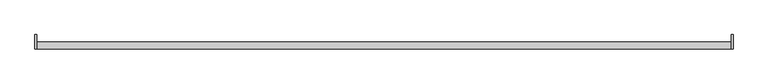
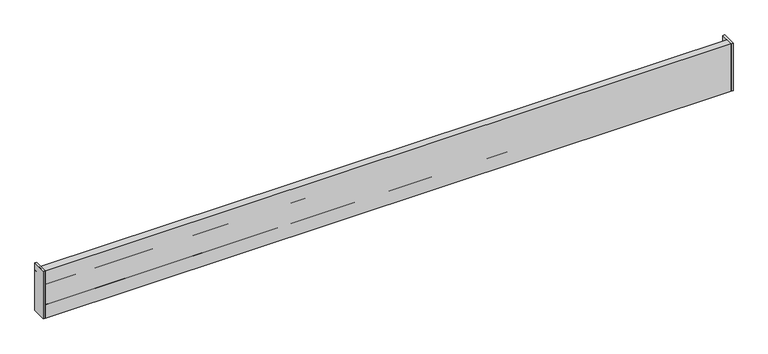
"""IFC4 building model written with IfcOpenShell, lengths in millimetres: furniture geometry."""

from ifc_helpers import new_model, si_unit, frame, origin, place, context, project, spatial, polyline, outline, extrude, source, transform, mapped, element, save


def furniture_f1bbf21a(model_context):
    return source(origin(), model_context, "Body", "SweptSolid", [
        extrude(outline(polyline([(-606.425, 12.6999996), (-606.425, -12.7000004), (-609.6, -12.7000004), (-609.6, 12.6999996), (-606.425, 12.6999996)])), frame((0.0, 0.0, 833.4375), z_axis=(0.0, 0.0, 1.0), x_axis=(1.0, 0.0, 0.0)), (0.0, 0.0, 1.0), 88.9),
        extrude(outline(polyline([(609.6, 12.6999996), (609.6, -12.7000004), (606.425, -12.7000004), (606.425, 12.6999996), (609.6, 12.6999996)])), frame((0.0, 0.0, 833.4375), z_axis=(0.0, 0.0, 1.0), x_axis=(1.0, 0.0, 0.0)), (0.0, 0.0, 1.0), 88.9),
        extrude(outline(polyline([(606.425, 0.0), (606.425, -12.7000004), (-606.425, -12.7000004), (-606.425, 0.0), (606.425, 0.0)])), frame((0.0, 0.0, 833.4375), z_axis=(0.0, 0.0, 1.0), x_axis=(1.0, 0.0, 0.0)), (0.0, 0.0, 1.0), 88.9),
        extrude(outline(polyline([(-12.7000004, 909.6374966), (-12.7000004, 922.3375), (0.0, 922.3375), (0.0, 833.4375), (-12.7000004, 833.4375), (-12.7000004, 858.8374966), (-3.1750002, 858.8374966), (-3.1750002, 871.5374966), (-12.7000004, 871.5374966), (-12.7000004, 896.9374966), (-3.1750002, 896.9374966), (-3.1750002, 909.6374966), (-12.7000004, 909.6374966)])), frame((-606.425, 0.0, 0.0), z_axis=(1.0, 0.0, 0.0), x_axis=(0.0, 1.0, 0.0)), (0.0, 0.0, 1.0), 1212.85),
        extrude(outline(polyline([(-12.7000004, 922.3375), (0.0, 922.3375), (0.0, 909.6374966), (12.6999996, 909.6374966), (12.6999996, 846.137497), (0.0, 846.137497), (0.0, 833.4375), (-12.7000004, 833.4375), (-12.7000004, 922.3375)])), frame((-609.6, 0.0, 0.0), z_axis=(1.0, 0.0, 0.0), x_axis=(0.0, 1.0, 0.0)), (0.0, 0.0, 1.0), 3.175),
        extrude(outline(polyline([(-12.7000004, 922.3375), (0.0, 922.3375), (0.0, 909.6374966), (12.6999996, 909.6374966), (12.6999996, 846.137497), (0.0, 846.137497), (0.0, 833.4375), (-12.7000004, 833.4375), (-12.7000004, 922.3375)])), frame((606.425, 0.0, 0.0), z_axis=(1.0, 0.0, 0.0), x_axis=(0.0, 1.0, 0.0)), (0.0, 0.0, 1.0), 3.175),
    ])


if __name__ == "__main__":
    model = new_model("IFC4")
    model_context = context("Model", 3, world=origin())
    ifc_project = project(units=[si_unit("LENGTHUNIT", "METRE", prefix="MILLI")], contexts=[model_context])
    site = spatial("IfcSite", under=ifc_project)
    building = spatial("IfcBuilding", under=site)
    placement = place(None, origin())
    furniture_shape = furniture_f1bbf21a(model_context)
    element("IfcFurniture", 1, ObjectType="HermanMiller_ActionOffice_A3610_ToolBar : 4\"H x 48\"W", at=placement, inside=building, context=model_context, shape_type="MappedRepresentation", body=[
        mapped(furniture_shape, transform((0.0, 0.0, 0.0), x_axis=(1.0, 0.0, 0.0), y_axis=(0.0, 1.0, 0.0), z_axis=(0.0, 0.0, 1.0))),
    ])
    save(model, "model.ifc")
